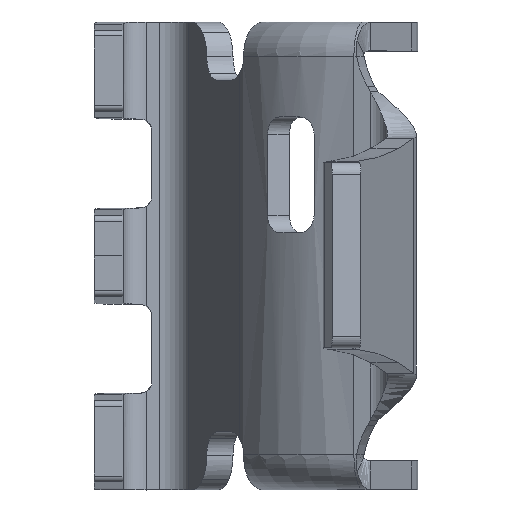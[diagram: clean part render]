
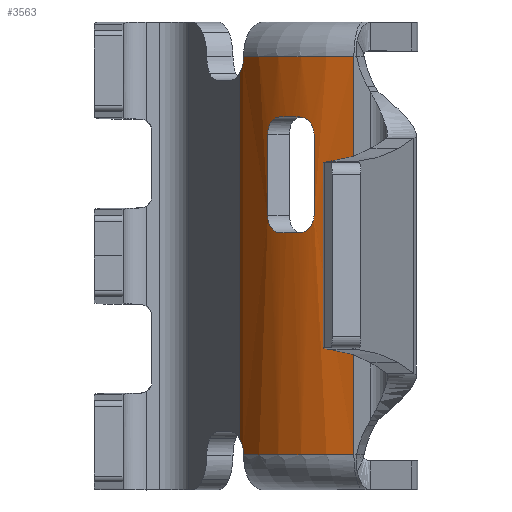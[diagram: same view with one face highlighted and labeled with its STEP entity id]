
A CAD part, top view. The second image highlights one B-rep face of the part: STEP entity #3563.
In plain terms, the highlighted cylindrical face has radius 15.2 mm (diameter 30.4 mm), a partial arc.
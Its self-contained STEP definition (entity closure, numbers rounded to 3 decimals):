
#3438=AXIS2_PLACEMENT_3D('Cylinder Axis2P3D',#3435,#3436,#3437) ;
#3451=AXIS2_PLACEMENT_3D('Circle Axis2P3D',#3449,#3450,$) ;
#3474=AXIS2_PLACEMENT_3D('Circle Axis2P3D',#3472,#3473,$) ;
#3516=AXIS2_PLACEMENT_3D('Circle Axis2P3D',#3514,#3515,$) ;
#3550=AXIS2_PLACEMENT_3D('Circle Axis2P3D',#3548,#3549,$) ;
#2725=CARTESIAN_POINT('Vertex',(124.106,-15.846,27.299)) ;
#2728=CARTESIAN_POINT('Line Origine',(124.106,0.,27.299)) ;
#2732=CARTESIAN_POINT('Vertex',(124.106,15.846,27.299)) ;
#3435=CARTESIAN_POINT('Axis2P3D Location',(137.882,0.,20.875)) ;
#3440=CARTESIAN_POINT('Line Origine',(133.948,0.,35.557)) ;
#3444=CARTESIAN_POINT('Vertex',(133.948,17.2,35.557)) ;
#3446=CARTESIAN_POINT('Vertex',(133.948,-17.2,35.557)) ;
#3449=CARTESIAN_POINT('Axis2P3D Location',(137.882,17.2,20.875)) ;
#3453=CARTESIAN_POINT('Vertex',(124.405,17.2,27.906)) ;
#3457=CARTESIAN_POINT('Control Point',(124.405,17.2,27.906)) ;
#3458=CARTESIAN_POINT('Control Point',(124.405,16.809,27.906)) ;
#3459=CARTESIAN_POINT('Control Point',(124.345,16.42,27.791)) ;
#3460=CARTESIAN_POINT('Control Point',(124.233,16.096,27.571)) ;
#3461=CARTESIAN_POINT('Control Point',(124.106,15.846,27.299)) ;
#3464=CARTESIAN_POINT('Control Point',(124.405,-17.2,27.906)) ;
#3465=CARTESIAN_POINT('Control Point',(124.405,-16.809,27.906)) ;
#3466=CARTESIAN_POINT('Control Point',(124.345,-16.42,27.791)) ;
#3467=CARTESIAN_POINT('Control Point',(124.233,-16.096,27.571)) ;
#3468=CARTESIAN_POINT('Control Point',(124.106,-15.846,27.299)) ;
#3469=CARTESIAN_POINT('Vertex',(124.405,-17.2,27.906)) ;
#3472=CARTESIAN_POINT('Axis2P3D Location',(137.882,-17.2,20.875)) ;
#3486=CARTESIAN_POINT('Control Point',(129.225,12.,33.369)) ;
#3487=CARTESIAN_POINT('Control Point',(129.612,12.,33.638)) ;
#3488=CARTESIAN_POINT('Control Point',(130.011,11.817,33.892)) ;
#3489=CARTESIAN_POINT('Control Point',(130.339,11.444,34.073)) ;
#3490=CARTESIAN_POINT('Control Point',(130.5,10.972,34.163)) ;
#3491=CARTESIAN_POINT('Control Point',(130.5,10.5,34.163)) ;
#3492=CARTESIAN_POINT('Vertex',(129.225,12.,33.369)) ;
#3494=CARTESIAN_POINT('Vertex',(130.5,10.5,34.163)) ;
#3497=CARTESIAN_POINT('Line Origine',(130.5,0.,34.163)) ;
#3501=CARTESIAN_POINT('Vertex',(130.5,3.5,34.163)) ;
#3505=CARTESIAN_POINT('Control Point',(129.225,2.,33.369)) ;
#3506=CARTESIAN_POINT('Control Point',(129.612,2.,33.638)) ;
#3507=CARTESIAN_POINT('Control Point',(130.011,2.183,33.892)) ;
#3508=CARTESIAN_POINT('Control Point',(130.339,2.556,34.073)) ;
#3509=CARTESIAN_POINT('Control Point',(130.5,3.028,34.163)) ;
#3510=CARTESIAN_POINT('Control Point',(130.5,3.5,34.163)) ;
#3511=CARTESIAN_POINT('Vertex',(129.225,2.,33.369)) ;
#3514=CARTESIAN_POINT('Axis2P3D Location',(137.882,2.,20.875)) ;
#3518=CARTESIAN_POINT('Vertex',(127.55,2.,32.024)) ;
#3522=CARTESIAN_POINT('Control Point',(127.55,2.,32.024)) ;
#3523=CARTESIAN_POINT('Control Point',(127.204,2.,31.703)) ;
#3524=CARTESIAN_POINT('Control Point',(126.87,2.183,31.369)) ;
#3525=CARTESIAN_POINT('Control Point',(126.622,2.556,31.088)) ;
#3526=CARTESIAN_POINT('Control Point',(126.5,3.028,30.95)) ;
#3527=CARTESIAN_POINT('Control Point',(126.5,3.5,30.95)) ;
#3528=CARTESIAN_POINT('Vertex',(126.5,3.5,30.95)) ;
#3531=CARTESIAN_POINT('Line Origine',(126.5,0.,30.95)) ;
#3535=CARTESIAN_POINT('Vertex',(126.5,10.5,30.95)) ;
#3539=CARTESIAN_POINT('Control Point',(127.55,12.,32.024)) ;
#3540=CARTESIAN_POINT('Control Point',(127.204,12.,31.703)) ;
#3541=CARTESIAN_POINT('Control Point',(126.87,11.817,31.369)) ;
#3542=CARTESIAN_POINT('Control Point',(126.622,11.444,31.088)) ;
#3543=CARTESIAN_POINT('Control Point',(126.5,10.972,30.95)) ;
#3544=CARTESIAN_POINT('Control Point',(126.5,10.5,30.95)) ;
#3545=CARTESIAN_POINT('Vertex',(127.55,12.,32.024)) ;
#3548=CARTESIAN_POINT('Axis2P3D Location',(137.882,12.,20.875)) ;
#2729=DIRECTION('Vector Direction',(0.,1.,0.)) ;
#3436=DIRECTION('Axis2P3D Direction',(0.,1.,0.)) ;
#3437=DIRECTION('Axis2P3D XDirection',(-0.906,0.,0.423)) ;
#3441=DIRECTION('Vector Direction',(0.,1.,0.)) ;
#3450=DIRECTION('Axis2P3D Direction',(0.,1.,0.)) ;
#3473=DIRECTION('Axis2P3D Direction',(0.,1.,0.)) ;
#3498=DIRECTION('Vector Direction',(0.,1.,0.)) ;
#3515=DIRECTION('Axis2P3D Direction',(0.,1.,0.)) ;
#3532=DIRECTION('Vector Direction',(0.,1.,0.)) ;
#3549=DIRECTION('Axis2P3D Direction',(0.,1.,0.)) ;
#2730=VECTOR('Line Direction',#2729,1.) ;
#3442=VECTOR('Line Direction',#3441,1.) ;
#3499=VECTOR('Line Direction',#3498,1.) ;
#3533=VECTOR('Line Direction',#3532,1.) ;
#3478=ORIENTED_EDGE('',*,*,#3448,.F.) ;
#3479=ORIENTED_EDGE('',*,*,#3455,.F.) ;
#3480=ORIENTED_EDGE('',*,*,#3462,.F.) ;
#3481=ORIENTED_EDGE('',*,*,#2734,.T.) ;
#3482=ORIENTED_EDGE('',*,*,#3471,.T.) ;
#3483=ORIENTED_EDGE('',*,*,#3476,.T.) ;
#3554=ORIENTED_EDGE('',*,*,#3496,.T.) ;
#3555=ORIENTED_EDGE('',*,*,#3503,.F.) ;
#3556=ORIENTED_EDGE('',*,*,#3513,.T.) ;
#3557=ORIENTED_EDGE('',*,*,#3520,.T.) ;
#3558=ORIENTED_EDGE('',*,*,#3530,.T.) ;
#3559=ORIENTED_EDGE('',*,*,#3537,.T.) ;
#3560=ORIENTED_EDGE('',*,*,#3547,.T.) ;
#3561=ORIENTED_EDGE('',*,*,#3552,.T.) ;
#3562=FACE_BOUND('',#3553,.T.) ;
#3563=ADVANCED_FACE('\X2\95016B627247\X0\   \X2\65399F7F53E35C3A5BF8FF0C5E726D895BFC81F4556E54084E0D52304F4D\X0\230427',(#3484,#3562),#3439,.T.) ;
#3456=B_SPLINE_CURVE_WITH_KNOTS('',4,(#3457,#3458,#3459,#3460,#3461),.UNSPECIFIED.,.F.,.U.,(5,5),(0.,2.214),.UNSPECIFIED.) ;
#3463=B_SPLINE_CURVE_WITH_KNOTS('',4,(#3464,#3465,#3466,#3467,#3468),.UNSPECIFIED.,.F.,.U.,(5,5),(0.,2.214),.UNSPECIFIED.) ;
#3485=B_SPLINE_CURVE_WITH_KNOTS('',5,(#3486,#3487,#3488,#3489,#3490,#3491),.UNSPECIFIED.,.F.,.U.,(6,6),(0.,3.426),.UNSPECIFIED.) ;
#3504=B_SPLINE_CURVE_WITH_KNOTS('',5,(#3505,#3506,#3507,#3508,#3509,#3510),.UNSPECIFIED.,.F.,.U.,(6,6),(0.,3.426),.UNSPECIFIED.) ;
#3521=B_SPLINE_CURVE_WITH_KNOTS('',5,(#3522,#3523,#3524,#3525,#3526,#3527),.UNSPECIFIED.,.F.,.U.,(6,6),(0.,3.426),.UNSPECIFIED.) ;
#3538=B_SPLINE_CURVE_WITH_KNOTS('',5,(#3539,#3540,#3541,#3542,#3543,#3544),.UNSPECIFIED.,.F.,.U.,(6,6),(0.,3.426),.UNSPECIFIED.) ;
#3452=CIRCLE('generated circle',#3451,15.2) ;
#3475=CIRCLE('generated circle',#3474,15.2) ;
#3517=CIRCLE('generated circle',#3516,15.2) ;
#3551=CIRCLE('generated circle',#3550,15.2) ;
#3439=CYLINDRICAL_SURFACE('generated cylinder',#3438,15.2) ;
#2734=EDGE_CURVE('',#2733,#2726,#2731,.F.) ;
#3448=EDGE_CURVE('',#3445,#3447,#3443,.F.) ;
#3455=EDGE_CURVE('',#3454,#3445,#3452,.T.) ;
#3462=EDGE_CURVE('',#2733,#3454,#3456,.F.) ;
#3471=EDGE_CURVE('',#2726,#3470,#3463,.F.) ;
#3476=EDGE_CURVE('',#3470,#3447,#3475,.T.) ;
#3496=EDGE_CURVE('',#3493,#3495,#3485,.T.) ;
#3503=EDGE_CURVE('',#3502,#3495,#3500,.T.) ;
#3513=EDGE_CURVE('',#3502,#3512,#3504,.F.) ;
#3520=EDGE_CURVE('',#3512,#3519,#3517,.F.) ;
#3530=EDGE_CURVE('',#3519,#3529,#3521,.T.) ;
#3537=EDGE_CURVE('',#3529,#3536,#3534,.T.) ;
#3547=EDGE_CURVE('',#3536,#3546,#3538,.F.) ;
#3552=EDGE_CURVE('',#3546,#3493,#3551,.T.) ;
#3477=EDGE_LOOP('',(#3478,#3479,#3480,#3481,#3482,#3483)) ;
#3553=EDGE_LOOP('',(#3554,#3555,#3556,#3557,#3558,#3559,#3560,#3561)) ;
#3484=FACE_OUTER_BOUND('',#3477,.T.) ;
#2731=LINE('Line',#2728,#2730) ;
#3443=LINE('Line',#3440,#3442) ;
#3500=LINE('Line',#3497,#3499) ;
#3534=LINE('Line',#3531,#3533) ;
#2726=VERTEX_POINT('',#2725) ;
#2733=VERTEX_POINT('',#2732) ;
#3445=VERTEX_POINT('',#3444) ;
#3447=VERTEX_POINT('',#3446) ;
#3454=VERTEX_POINT('',#3453) ;
#3470=VERTEX_POINT('',#3469) ;
#3493=VERTEX_POINT('',#3492) ;
#3495=VERTEX_POINT('',#3494) ;
#3502=VERTEX_POINT('',#3501) ;
#3512=VERTEX_POINT('',#3511) ;
#3519=VERTEX_POINT('',#3518) ;
#3529=VERTEX_POINT('',#3528) ;
#3536=VERTEX_POINT('',#3535) ;
#3546=VERTEX_POINT('',#3545) ;
